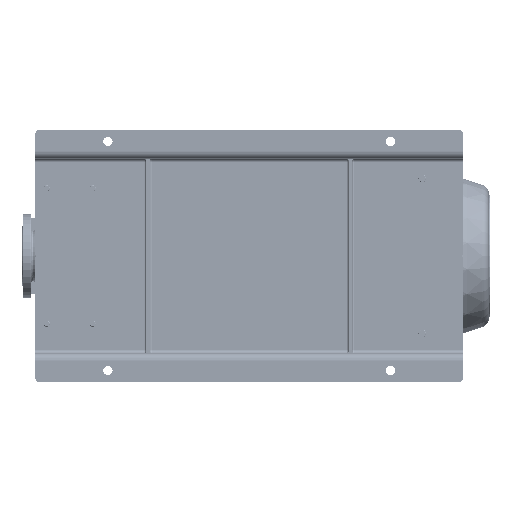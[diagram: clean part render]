
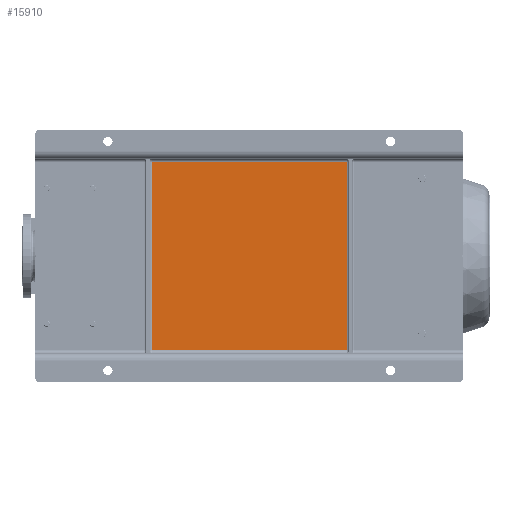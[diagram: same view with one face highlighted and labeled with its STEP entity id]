
A CAD part, front view. The second image highlights one B-rep face of the part: STEP entity #15910.
In plain terms, the highlighted planar face has unit normal (0, -1, 0).
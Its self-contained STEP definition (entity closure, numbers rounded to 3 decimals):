
#3794 = CARTESIAN_POINT ( 'NONE',  ( 75., 65., -815. ) ) ;
#6398 = LINE ( 'NONE', #160693, #81107 ) ;
#10044 = DIRECTION ( 'NONE',  ( -1., 0., 0. ) ) ;
#15910 = ADVANCED_FACE ( 'NONE', ( #105868 ), #120205, .T. ) ;
#17190 = LINE ( 'NONE', #3794, #153671 ) ;
#19947 = DIRECTION ( 'NONE',  ( 0., 0., -1. ) ) ;
#21969 = EDGE_CURVE ( 'NONE', #71888, #129827, #125555, .T. ) ;
#22609 = EDGE_LOOP ( 'NONE', ( #159749, #173552, #72561, #132950 ) ) ;
#27408 = VERTEX_POINT ( 'NONE', #55852 ) ;
#39963 = CARTESIAN_POINT ( 'NONE',  ( 85., 65., -820. ) ) ;
#45857 = EDGE_CURVE ( 'NONE', #129827, #82965, #114419, .T. ) ;
#46245 = EDGE_CURVE ( 'NONE', #27408, #71888, #6398, .T. ) ;
#48409 = CARTESIAN_POINT ( 'NONE',  ( 575., 65., -305. ) ) ;
#53552 = CARTESIAN_POINT ( 'NONE',  ( 85., 65., -815. ) ) ;
#55852 = CARTESIAN_POINT ( 'NONE',  ( 575., 65., -815. ) ) ;
#71888 = VERTEX_POINT ( 'NONE', #48409 ) ;
#72561 = ORIENTED_EDGE ( 'NONE', *, *, #46245, .T. ) ;
#81107 = VECTOR ( 'NONE', #147285, 1000. ) ;
#82965 = VERTEX_POINT ( 'NONE', #53552 ) ;
#105868 = FACE_OUTER_BOUND ( 'NONE', #22609, .T. ) ;
#114419 = LINE ( 'NONE', #39963, #187723 ) ;
#120205 = PLANE ( 'NONE',  #143741 ) ;
#125555 = LINE ( 'NONE', #182862, #135549 ) ;
#129827 = VERTEX_POINT ( 'NONE', #162459 ) ;
#132950 = ORIENTED_EDGE ( 'NONE', *, *, #21969, .T. ) ;
#135520 = DIRECTION ( 'NONE',  ( 1., 0., 0. ) ) ;
#135549 = VECTOR ( 'NONE', #10044, 1000. ) ;
#136381 = CARTESIAN_POINT ( 'NONE',  ( 75., 65., -1120. ) ) ;
#143741 = AXIS2_PLACEMENT_3D ( 'NONE', #136381, #165085, #19947 ) ;
#147285 = DIRECTION ( 'NONE',  ( 0., 0., 1. ) ) ;
#153671 = VECTOR ( 'NONE', #135520, 1000. ) ;
#153742 = EDGE_CURVE ( 'NONE', #82965, #27408, #17190, .T. ) ;
#159749 = ORIENTED_EDGE ( 'NONE', *, *, #45857, .T. ) ;
#160693 = CARTESIAN_POINT ( 'NONE',  ( 575., 65., -300. ) ) ;
#162459 = CARTESIAN_POINT ( 'NONE',  ( 85., 65., -305. ) ) ;
#165085 = DIRECTION ( 'NONE',  ( 0., -1., 0. ) ) ;
#173552 = ORIENTED_EDGE ( 'NONE', *, *, #153742, .T. ) ;
#182862 = CARTESIAN_POINT ( 'NONE',  ( 75., 65., -305. ) ) ;
#187723 = VECTOR ( 'NONE', #188859, 1000. ) ;
#188859 = DIRECTION ( 'NONE',  ( 0., 0., -1. ) ) ;
